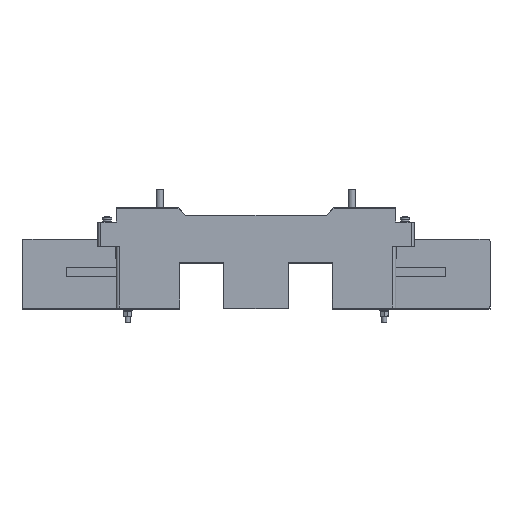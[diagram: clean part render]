
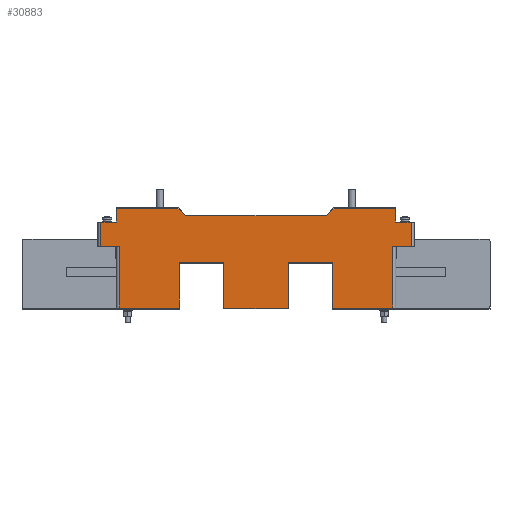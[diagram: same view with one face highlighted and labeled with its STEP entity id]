
A CAD part, front view. The second image highlights one B-rep face of the part: STEP entity #30883.
In plain terms, the highlighted planar face has unit normal (0, -1, 0).
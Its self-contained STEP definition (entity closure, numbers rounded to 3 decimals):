
#27542=FACE_OUTER_BOUND('',#51067,.T.);
#30883=ADVANCED_FACE('',(#27542),#34363,.T.);
#34363=PLANE('',#91634);
#38481=LINE('',#121171,#44965);
#38727=LINE('',#121846,#45211);
#38728=LINE('',#121849,#45212);
#38729=LINE('',#121851,#45213);
#38730=LINE('',#121853,#45214);
#38731=LINE('',#121855,#45215);
#38732=LINE('',#121857,#45216);
#38733=LINE('',#121859,#45217);
#38734=LINE('',#121861,#45218);
#38735=LINE('',#121862,#45219);
#38736=LINE('',#121864,#45220);
#38737=LINE('',#121866,#45221);
#38738=LINE('',#121868,#45222);
#38739=LINE('',#121870,#45223);
#38740=LINE('',#121874,#45224);
#38741=LINE('',#121876,#45225);
#38742=LINE('',#121878,#45226);
#38743=LINE('',#121880,#45227);
#38744=LINE('',#121882,#45228);
#38745=LINE('',#121886,#45229);
#38746=LINE('',#121888,#45230);
#38747=LINE('',#121890,#45231);
#38748=LINE('',#121892,#45232);
#38749=LINE('',#121894,#45233);
#44965=VECTOR('',#101309,1.);
#45211=VECTOR('',#101829,1.);
#45212=VECTOR('',#101830,1.);
#45213=VECTOR('',#101831,1.);
#45214=VECTOR('',#101832,1.);
#45215=VECTOR('',#101833,1.);
#45216=VECTOR('',#101834,1.);
#45217=VECTOR('',#101835,1.);
#45218=VECTOR('',#101836,1.);
#45219=VECTOR('',#101837,1.);
#45220=VECTOR('',#101838,1.);
#45221=VECTOR('',#101839,1.);
#45222=VECTOR('',#101840,1.);
#45223=VECTOR('',#101841,1.);
#45224=VECTOR('',#101844,1.);
#45225=VECTOR('',#101845,1.);
#45226=VECTOR('',#101846,1.);
#45227=VECTOR('',#101847,1.);
#45228=VECTOR('',#101848,1.);
#45229=VECTOR('',#101851,1.);
#45230=VECTOR('',#101852,1.);
#45231=VECTOR('',#101853,1.);
#45232=VECTOR('',#101854,1.);
#45233=VECTOR('',#101855,1.);
#51067=EDGE_LOOP('',(#59217,#59218,#59219,#59220,#59221,#59222,#59223,#59224,
#59225,#59226,#59227,#59228,#59229,#59230,#59231,#59232,#59233,#59234,#59235,
#59236,#59237,#59238,#59239,#59240,#59241,#59242));
#59217=ORIENTED_EDGE('',*,*,#82167,.F.);
#59218=ORIENTED_EDGE('',*,*,#82168,.T.);
#59219=ORIENTED_EDGE('',*,*,#82169,.T.);
#59220=ORIENTED_EDGE('',*,*,#82170,.T.);
#59221=ORIENTED_EDGE('',*,*,#82171,.T.);
#59222=ORIENTED_EDGE('',*,*,#82172,.T.);
#59223=ORIENTED_EDGE('',*,*,#82173,.T.);
#59224=ORIENTED_EDGE('',*,*,#82174,.T.);
#59225=ORIENTED_EDGE('',*,*,#81821,.T.);
#59226=ORIENTED_EDGE('',*,*,#82175,.T.);
#59227=ORIENTED_EDGE('',*,*,#82176,.F.);
#59228=ORIENTED_EDGE('',*,*,#82177,.T.);
#59229=ORIENTED_EDGE('',*,*,#82178,.T.);
#59230=ORIENTED_EDGE('',*,*,#82179,.T.);
#59231=ORIENTED_EDGE('',*,*,#82180,.F.);
#59232=ORIENTED_EDGE('',*,*,#82181,.T.);
#59233=ORIENTED_EDGE('',*,*,#82182,.T.);
#59234=ORIENTED_EDGE('',*,*,#82183,.T.);
#59235=ORIENTED_EDGE('',*,*,#82184,.T.);
#59236=ORIENTED_EDGE('',*,*,#82185,.T.);
#59237=ORIENTED_EDGE('',*,*,#82186,.F.);
#59238=ORIENTED_EDGE('',*,*,#82187,.T.);
#59239=ORIENTED_EDGE('',*,*,#82188,.T.);
#59240=ORIENTED_EDGE('',*,*,#82189,.T.);
#59241=ORIENTED_EDGE('',*,*,#82190,.T.);
#59242=ORIENTED_EDGE('',*,*,#82191,.T.);
#75222=VERTEX_POINT('',#121170);
#75223=VERTEX_POINT('',#121172);
#75515=VERTEX_POINT('',#121847);
#75516=VERTEX_POINT('',#121848);
#75517=VERTEX_POINT('',#121850);
#75518=VERTEX_POINT('',#121852);
#75519=VERTEX_POINT('',#121854);
#75520=VERTEX_POINT('',#121856);
#75521=VERTEX_POINT('',#121858);
#75522=VERTEX_POINT('',#121860);
#75523=VERTEX_POINT('',#121863);
#75524=VERTEX_POINT('',#121865);
#75525=VERTEX_POINT('',#121867);
#75526=VERTEX_POINT('',#121869);
#75527=VERTEX_POINT('',#121871);
#75528=VERTEX_POINT('',#121873);
#75529=VERTEX_POINT('',#121875);
#75530=VERTEX_POINT('',#121877);
#75531=VERTEX_POINT('',#121879);
#75532=VERTEX_POINT('',#121881);
#75533=VERTEX_POINT('',#121883);
#75534=VERTEX_POINT('',#121885);
#75535=VERTEX_POINT('',#121887);
#75536=VERTEX_POINT('',#121889);
#75537=VERTEX_POINT('',#121891);
#75538=VERTEX_POINT('',#121893);
#81821=EDGE_CURVE('',#75223,#75222,#38481,.T.);
#82167=EDGE_CURVE('',#75515,#75516,#38727,.T.);
#82168=EDGE_CURVE('',#75515,#75517,#38728,.T.);
#82169=EDGE_CURVE('',#75517,#75518,#38729,.T.);
#82170=EDGE_CURVE('',#75518,#75519,#38730,.T.);
#82171=EDGE_CURVE('',#75519,#75520,#38731,.T.);
#82172=EDGE_CURVE('',#75520,#75521,#38732,.T.);
#82173=EDGE_CURVE('',#75521,#75522,#38733,.T.);
#82174=EDGE_CURVE('',#75522,#75223,#38734,.T.);
#82175=EDGE_CURVE('',#75222,#75523,#38735,.T.);
#82176=EDGE_CURVE('',#75524,#75523,#38736,.T.);
#82177=EDGE_CURVE('',#75524,#75525,#38737,.T.);
#82178=EDGE_CURVE('',#75525,#75526,#38738,.T.);
#82179=EDGE_CURVE('',#75526,#75527,#38739,.T.);
#82180=EDGE_CURVE('',#75528,#75527,#88645,.T.);
#82181=EDGE_CURVE('',#75528,#75529,#38740,.T.);
#82182=EDGE_CURVE('',#75529,#75530,#38741,.T.);
#82183=EDGE_CURVE('',#75530,#75531,#38742,.T.);
#82184=EDGE_CURVE('',#75531,#75532,#38743,.T.);
#82185=EDGE_CURVE('',#75532,#75533,#38744,.T.);
#82186=EDGE_CURVE('',#75534,#75533,#88646,.T.);
#82187=EDGE_CURVE('',#75534,#75535,#38745,.T.);
#82188=EDGE_CURVE('',#75535,#75536,#38746,.T.);
#82189=EDGE_CURVE('',#75536,#75537,#38747,.T.);
#82190=EDGE_CURVE('',#75537,#75538,#38748,.T.);
#82191=EDGE_CURVE('',#75538,#75516,#38749,.T.);
#88645=CIRCLE('',#91632,1.);
#88646=CIRCLE('',#91633,1.);
#91632=AXIS2_PLACEMENT_3D('',#121872,#101842,#101843);
#91633=AXIS2_PLACEMENT_3D('',#121884,#101849,#101850);
#91634=AXIS2_PLACEMENT_3D('',#121895,#101856,#101857);
#101309=DIRECTION('',(-1.,0.,0.));
#101829=DIRECTION('',(1.,0.,0.));
#101830=DIRECTION('',(0.,0.,1.));
#101831=DIRECTION('',(-1.,0.,0.));
#101832=DIRECTION('',(-0.707,0.,-0.707));
#101833=DIRECTION('',(-1.,0.,0.));
#101834=DIRECTION('',(-0.707,0.,0.707));
#101835=DIRECTION('',(-1.,0.,0.));
#101836=DIRECTION('',(0.,0.,-1.));
#101837=DIRECTION('',(0.,0.,-1.));
#101838=DIRECTION('',(-1.,0.,0.));
#101839=DIRECTION('',(0.,0.,-1.));
#101840=DIRECTION('',(1.,0.,0.));
#101841=DIRECTION('',(0.,0.,1.));
#101842=DIRECTION('',(0.,-1.,0.));
#101843=DIRECTION('',(0.,0.,-1.));
#101844=DIRECTION('',(1.,0.,0.));
#101845=DIRECTION('',(0.,0.,-1.));
#101846=DIRECTION('',(1.,0.,0.));
#101847=DIRECTION('',(0.,0.,1.));
#101848=DIRECTION('',(1.,0.,0.));
#101849=DIRECTION('',(0.,-1.,0.));
#101850=DIRECTION('',(0.,0.,-1.));
#101851=DIRECTION('',(0.,0.,-1.));
#101852=DIRECTION('',(1.,0.,0.));
#101853=DIRECTION('',(0.,0.,1.));
#101854=DIRECTION('',(1.,0.,0.));
#101855=DIRECTION('',(0.,0.,1.));
#101856=DIRECTION('',(0.,-1.,0.));
#101857=DIRECTION('',(0.,0.,1.));
#121170=CARTESIAN_POINT('',(-16.,0.,90.));
#121171=CARTESIAN_POINT('',(-19.,0.,90.));
#121172=CARTESIAN_POINT('',(0.5,0.,90.));
#121846=CARTESIAN_POINT('',(310.,0.,90.));
#121847=CARTESIAN_POINT('',(290.5,0.,90.));
#121848=CARTESIAN_POINT('',(307.,0.,90.));
#121849=CARTESIAN_POINT('',(290.5,0.,0.));
#121850=CARTESIAN_POINT('',(290.5,0.,104.5));
#121851=CARTESIAN_POINT('',(145.5,0.,104.5));
#121852=CARTESIAN_POINT('',(226.707,0.,104.5));
#121853=CARTESIAN_POINT('',(218.854,0.,96.646));
#121854=CARTESIAN_POINT('',(218.707,0.,96.5));
#121855=CARTESIAN_POINT('',(72.5,0.,96.5));
#121856=CARTESIAN_POINT('',(72.293,0.,96.5));
#121857=CARTESIAN_POINT('',(64.146,0.,104.646));
#121858=CARTESIAN_POINT('',(64.293,0.,104.5));
#121859=CARTESIAN_POINT('',(145.5,0.,104.5));
#121860=CARTESIAN_POINT('',(0.5,0.,104.5));
#121861=CARTESIAN_POINT('',(0.5,0.,0.));
#121862=CARTESIAN_POINT('',(-16.,0.,0.));
#121863=CARTESIAN_POINT('',(-16.,0.,65.));
#121864=CARTESIAN_POINT('',(-19.,0.,65.));
#121865=CARTESIAN_POINT('',(3.,0.,65.));
#121866=CARTESIAN_POINT('',(3.,0.,0.));
#121867=CARTESIAN_POINT('',(3.,0.,0.5));
#121868=CARTESIAN_POINT('',(145.5,0.,0.5));
#121869=CARTESIAN_POINT('',(65.5,0.,0.5));
#121870=CARTESIAN_POINT('',(65.5,0.,47.));
#121871=CARTESIAN_POINT('',(65.5,0.,46.5));
#121872=CARTESIAN_POINT('',(66.5,0.,46.5));
#121873=CARTESIAN_POINT('',(66.5,0.,47.5));
#121874=CARTESIAN_POINT('',(111.5,0.,47.5));
#121875=CARTESIAN_POINT('',(112.,0.,47.5));
#121876=CARTESIAN_POINT('',(112.,0.,0.));
#121877=CARTESIAN_POINT('',(112.,0.,0.5));
#121878=CARTESIAN_POINT('',(179.5,0.,0.5));
#121879=CARTESIAN_POINT('',(179.,0.,0.5));
#121880=CARTESIAN_POINT('',(179.,0.,0.));
#121881=CARTESIAN_POINT('',(179.,0.,47.5));
#121882=CARTESIAN_POINT('',(225.,0.,47.5));
#121883=CARTESIAN_POINT('',(224.5,0.,47.5));
#121884=CARTESIAN_POINT('',(224.5,0.,46.5));
#121885=CARTESIAN_POINT('',(225.5,0.,46.5));
#121886=CARTESIAN_POINT('',(225.5,0.,0.));
#121887=CARTESIAN_POINT('',(225.5,0.,0.5));
#121888=CARTESIAN_POINT('',(145.5,0.,0.5));
#121889=CARTESIAN_POINT('',(288.,0.,0.5));
#121890=CARTESIAN_POINT('',(288.,0.,0.));
#121891=CARTESIAN_POINT('',(288.,0.,65.));
#121892=CARTESIAN_POINT('',(310.,0.,65.));
#121893=CARTESIAN_POINT('',(307.,0.,65.));
#121894=CARTESIAN_POINT('',(307.,0.,0.));
#121895=CARTESIAN_POINT('',(145.5,0.,0.));
